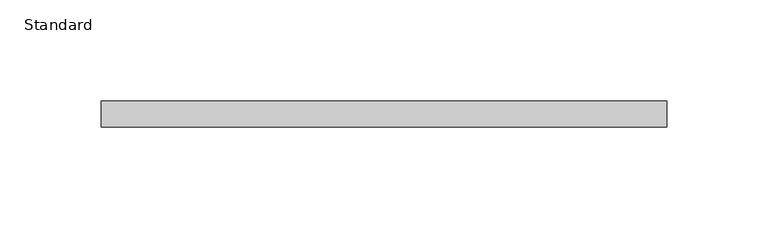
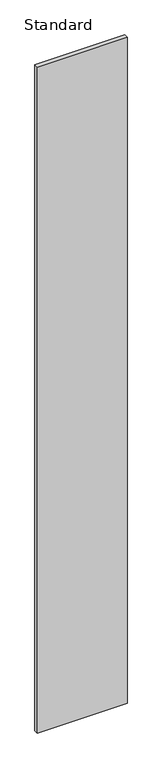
"""IFC4 building model written with IfcOpenShell, lengths in millimetres: furniture geometry, X_Partition-Compact Laminate-Duracube-Rectangular : Standard."""

import ifcopenshell
import ifcopenshell.guid

model = None  # the IFC model being written
_history = None  # IfcOwnerHistory: only IFC2X3 demands one
_inside = {}  # id of a spatial element -> (the spatial element, [elements in it])
_under = {}  # id of a project, library or spatial element -> (it, [spatial elements below it])
_declared = {}  # id of a project -> (the project, [libraries it declares])
_typed = {}  # id of a type object -> (the type object, [elements of that type])
_made_of = {}  # id of a material, layer set ... -> (it, [elements and type objects made of it])


def new_model(schema):
    """Start an empty IFC model of exactly this schema.

    Asked for "IFC4X3", IfcOpenShell would pick the latest addendum, in which some entities
    have other attributes; the version numbers below select the first issue.
    IFC2X3 requires an IfcOwnerHistory on every rooted entity: one is made here for all.
    """
    global model, _history
    if schema == "IFC4X3":
        model = ifcopenshell.file(schema_version=(4, 3, 0, 0))
    else:
        model = ifcopenshell.file(schema=schema)
    _inside.clear()
    _under.clear()
    _declared.clear()
    _typed.clear()
    _made_of.clear()
    _history = None
    if model.schema == "IFC2X3":
        org = make("IfcOrganization", Name="unknown")
        user = make(
            "IfcPersonAndOrganization",
            ThePerson=make("IfcPerson", FamilyName="unknown"),
            TheOrganization=org,
        )
        app = make(
            "IfcApplication",
            ApplicationDeveloper=org,
            Version="unknown",
            ApplicationFullName="unknown",
            ApplicationIdentifier="unknown",
        )
        _history = make(
            "IfcOwnerHistory",
            OwningUser=user,
            OwningApplication=app,
            ChangeAction="ADDED",
            CreationDate=0,
        )
    return model


def make(cls, **values):
    """One entity of the class cls with the attributes given. An attribute that is None is left unset."""
    return model.create_entity(
        cls, **{name: value for name, value in values.items() if value is not None}
    )


def rooted(cls, **values):
    """An entity with a GlobalId (a new one), such as an element, a storey or a relation."""
    return make(cls, GlobalId=ifcopenshell.guid.new(), OwnerHistory=_history, **values)


def si_unit(unit_type, name, prefix=None):
    """IfcSIUnit, for example si_unit("LENGTHUNIT", "METRE", prefix="MILLI")."""
    return make("IfcSIUnit", UnitType=unit_type, Prefix=prefix, Name=name)


def assignment(units):
    """IfcUnitAssignment: the units of a project."""
    return None if units is None else make("IfcUnitAssignment", Units=units)


def point(xyz):
    """IfcCartesianPoint."""
    return None if xyz is None else make("IfcCartesianPoint", Coordinates=xyz)


def direction(xyz):
    """IfcDirection."""
    return None if xyz is None else make("IfcDirection", DirectionRatios=xyz)


def frame(location, z_axis=None, x_axis=None):
    """IfcAxis2Placement3D, a coordinate frame: its origin and axes. An axis left out is left unset."""
    return make(
        "IfcAxis2Placement3D",
        Location=point(location),
        Axis=direction(z_axis),
        RefDirection=direction(x_axis),
    )


def origin():
    """The frame at (0, 0, 0) with its axes left unset."""
    return frame((0.0, 0.0, 0.0))


def place(relative_to, where):
    """IfcLocalPlacement: puts the frame where relative to a parent placement (None: the world)."""
    return make(
        "IfcLocalPlacement", PlacementRelTo=relative_to, RelativePlacement=where
    )


def context(
    kind, dimensions, precision=None, world=None, true_north=None, identifier=None
):
    """IfcGeometricRepresentationContext, for example the 3D "Model" context."""
    return make(
        "IfcGeometricRepresentationContext",
        ContextIdentifier=identifier,
        ContextType=kind,
        CoordinateSpaceDimension=dimensions,
        Precision=precision,
        WorldCoordinateSystem=world,
        TrueNorth=true_north,
    )


def project(units=None, contexts=None):
    """IfcProject with its units and contexts."""
    return rooted(
        "IfcProject",
        Name="project",
        RepresentationContexts=contexts,
        UnitsInContext=assignment(units),
    )


def spatial(cls, under=None, at=None, **own):
    """A site, building, storey or space (cls), placed at a placement, below another one or the project."""
    s = rooted(cls, ObjectPlacement=at, **own)
    if under is not None:
        _under.setdefault(under.id(), (under, []))[1].append(s)
    return s


def polyline(points):
    """IfcPolyline through the points."""
    return make("IfcPolyline", Points=[point(p) for p in points])


def outline(outer, holes=None, kind="AREA"):
    """IfcArbitraryClosedProfileDef: a profile drawn as a closed curve; with holes, ...WithVoids."""
    if holes is None:
        return make("IfcArbitraryClosedProfileDef", ProfileType=kind, OuterCurve=outer)
    return make(
        "IfcArbitraryProfileDefWithVoids",
        ProfileType=kind,
        OuterCurve=outer,
        InnerCurves=holes,
    )


def extrude(swept, where, along, depth):
    """IfcExtrudedAreaSolid: the profile swept, set in the frame where, extruded along a direction by depth."""
    return make(
        "IfcExtrudedAreaSolid",
        SweptArea=swept,
        Position=where,
        ExtrudedDirection=direction(along),
        Depth=depth,
    )


def shape(context_of_items, identifier, shape_type, items):
    """IfcShapeRepresentation: the items that make up one representation, for example the "Body"."""
    return make(
        "IfcShapeRepresentation",
        ContextOfItems=context_of_items,
        RepresentationIdentifier=identifier,
        RepresentationType=shape_type,
        Items=items,
    )


def source(mapping_origin, context_of_items, identifier, shape_type, items):
    """IfcRepresentationMap: a shape defined once, which mapped items show again and again."""
    return make(
        "IfcRepresentationMap",
        MappingOrigin=mapping_origin,
        MappedRepresentation=shape(context_of_items, identifier, shape_type, items),
    )


def transform(
    local_origin,
    x_axis=None,
    y_axis=None,
    z_axis=None,
    scale=None,
    scale2=None,
    scale3=None,
    uniform=True,
):
    """IfcCartesianTransformationOperator3D, or its non-uniform kind. x_axis, y_axis, z_axis: its Axis1, 2, 3."""
    if uniform:
        return make(
            "IfcCartesianTransformationOperator3D",
            Axis1=direction(x_axis),
            Axis2=direction(y_axis),
            LocalOrigin=point(local_origin),
            Scale=scale,
            Axis3=direction(z_axis),
        )
    return make(
        "IfcCartesianTransformationOperator3DnonUniform",
        Axis1=direction(x_axis),
        Axis2=direction(y_axis),
        LocalOrigin=point(local_origin),
        Scale=scale,
        Axis3=direction(z_axis),
        Scale2=scale2,
        Scale3=scale3,
    )


def mapped(mapping_source, mapping_target):
    """IfcMappedItem: shows the shape of a source again, moved by a transform."""
    return make(
        "IfcMappedItem", MappingSource=mapping_source, MappingTarget=mapping_target
    )


def made_of(thing, what):
    """Note that an element or type object is made of a material, layer set ...; save() writes the relation."""
    if what is not None:
        _made_of.setdefault(what.id(), (what, []))[1].append(thing)
    return thing


def element(
    cls,
    number,
    at=None,
    inside=None,
    cuts=None,
    type_object=None,
    material=None,
    context=None,
    identifier="Body",
    shape_type=None,
    held_by="IfcProductDefinitionShape",
    body=None,
    shapes=None,
    **own,
):
    """One element of the class cls, such as IfcWall. Its Tag is "e" and its number.

    at: its placement. inside: the storey or other place that contains it. cuts: it is an
    opening in that element (IfcRelVoidsElement). A single representation is given by context,
    identifier, shape_type and body (its items); several are given by shapes. held_by: the class
    of the entity that holds the representations. save() writes the other relations.
    """
    e = rooted(cls, Tag="e%d" % number, ObjectPlacement=at, **own)
    if body is not None:
        shapes = [shape(context, identifier, shape_type, body)]
    if shapes is not None:
        e.Representation = make(held_by, Representations=shapes)
    if inside is not None:
        _inside.setdefault(inside.id(), (inside, []))[1].append(e)
    if cuts is not None:
        rooted(
            "IfcRelVoidsElement", RelatingBuildingElement=cuts, RelatedOpeningElement=e
        )
    if type_object is not None:
        _typed.setdefault(type_object.id(), (type_object, []))[1].append(e)
    return made_of(e, material)


def aggregate(whole, parts):
    """IfcRelAggregates: a whole, such as a stair, and the parts it consists of."""
    return rooted("IfcRelAggregates", RelatingObject=whole, RelatedObjects=parts)


def save(model, path):
    """Write the relations noted so far, then the file.

    IfcRelAggregates (storeys below a building ...), IfcRelContainedInSpatialStructure (elements
    in a storey), IfcRelDefinesByType, IfcRelAssociatesMaterial and IfcRelDeclares: one each for
    every whole, place, type object, material and project.
    """
    for whole, parts in _under.values():
        aggregate(whole, parts)
    for where, things in _inside.values():
        rooted(
            "IfcRelContainedInSpatialStructure",
            RelatedElements=things,
            RelatingStructure=where,
        )
    for kind, things in _typed.values():
        rooted("IfcRelDefinesByType", RelatedObjects=things, RelatingType=kind)
    for what, things in _made_of.values():
        rooted("IfcRelAssociatesMaterial", RelatedObjects=things, RelatingMaterial=what)
    for by, libraries in _declared.values():
        rooted("IfcRelDeclares", RelatingContext=by, RelatedDefinitions=libraries)
    model.write(path)


def standard_951f8db3(model_context):
    return source(origin(), model_context, "Body", "SweptSolid", [
        extrude(outline(polyline([(184.7003264, 0.0), (184.7003264, -13.0), (-95.2996736, -13.0), (-95.2996736, 0.0), (184.7003264, 0.0)])), frame((0.0, 0.0, 200.0), z_axis=(0.0, 0.0, 1.0), x_axis=(1.0, 0.0, 0.0)), (0.0, 0.0, 1.0), 2198.0),
    ])


if __name__ == "__main__":
    model = new_model("IFC4")
    model_context = context("Model", 3, world=origin())
    ifc_project = project(units=[si_unit("LENGTHUNIT", "METRE", prefix="MILLI")], contexts=[model_context])
    site = spatial("IfcSite", under=ifc_project)
    building = spatial("IfcBuilding", under=site)
    placement = place(None, origin())
    standard_shape = standard_951f8db3(model_context)
    element("IfcFurniture", 1, ObjectType="X_Partition-Compact Laminate-Duracube-Rectangular : Standard", at=placement, inside=building, context=model_context, shape_type="MappedRepresentation", body=[
        mapped(standard_shape, transform((0.0, 0.0, 0.0), x_axis=(1.0, 0.0, 0.0), y_axis=(0.0, 1.0, 0.0), z_axis=(0.0, 0.0, 1.0))),
    ])
    save(model, "model.ifc")
